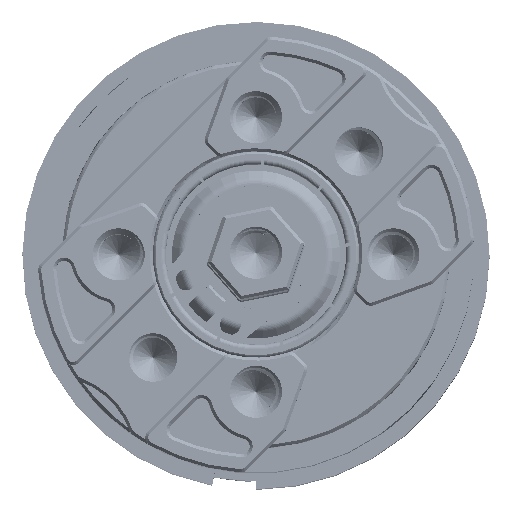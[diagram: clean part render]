
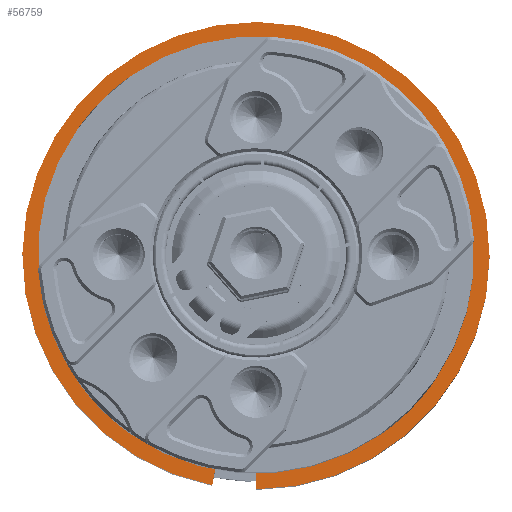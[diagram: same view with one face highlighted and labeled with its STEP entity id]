
A CAD part, top view. The second image highlights one B-rep face of the part: STEP entity #56759.
In plain terms, the highlighted planar face has unit normal (0, 0, 1).
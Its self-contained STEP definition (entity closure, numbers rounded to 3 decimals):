
#1869=PLANE('',#60741);
#3192=FACE_OUTER_BOUND('',#6780,.T.);
#6780=EDGE_LOOP('',(#38088,#38089,#38090,#38091));
#12870=CIRCLE('',#60734,17.8);
#12872=CIRCLE('',#60738,19.25);
#15560=LINE('',#87646,#19238);
#15564=LINE('',#87657,#19242);
#19238=VECTOR('',#67034,10.);
#19242=VECTOR('',#67046,10.);
#23049=VERTEX_POINT('',#87636);
#23050=VERTEX_POINT('',#87637);
#23053=VERTEX_POINT('',#87645);
#23055=VERTEX_POINT('',#87651);
#28744=EDGE_CURVE('',#23049,#23050,#12870,.T.);
#28748=EDGE_CURVE('',#23053,#23049,#15560,.T.);
#28751=EDGE_CURVE('',#23055,#23053,#12872,.T.);
#28754=EDGE_CURVE('',#23050,#23055,#15564,.T.);
#38088=ORIENTED_EDGE('',*,*,#28754,.F.);
#38089=ORIENTED_EDGE('',*,*,#28744,.F.);
#38090=ORIENTED_EDGE('',*,*,#28748,.F.);
#38091=ORIENTED_EDGE('',*,*,#28751,.F.);
#56759=ADVANCED_FACE('',(#3192),#1869,.T.);
#60734=AXIS2_PLACEMENT_3D('',#87638,#67026,#67027);
#60738=AXIS2_PLACEMENT_3D('',#87652,#67039,#67040);
#60741=AXIS2_PLACEMENT_3D('',#87659,#67048,#67049);
#67026=DIRECTION('center_axis',(0.,0.,1.));
#67027=DIRECTION('ref_axis',(1.,0.,0.));
#67034=DIRECTION('',(0.,-1.,0.));
#67039=DIRECTION('center_axis',(0.,0.,-1.));
#67040=DIRECTION('ref_axis',(0.,1.,0.));
#67046=DIRECTION('',(0.187,0.982,0.));
#67048=DIRECTION('center_axis',(0.,0.,1.));
#67049=DIRECTION('ref_axis',(1.,0.,0.));
#87636=CARTESIAN_POINT('',(0.,17.8,-8.));
#87637=CARTESIAN_POINT('',(3.335,17.485,-8.));
#87638=CARTESIAN_POINT('Origin',(0.,0.,-8.));
#87645=CARTESIAN_POINT('',(0.,19.25,-8.));
#87646=CARTESIAN_POINT('',(0.,9.625,-8.));
#87651=CARTESIAN_POINT('',(3.607,18.909,-8.));
#87652=CARTESIAN_POINT('Origin',(0.,0.,-8.));
#87657=CARTESIAN_POINT('',(1.668,8.742,-8.));
#87659=CARTESIAN_POINT('Origin',(0.,0.,-8.));
